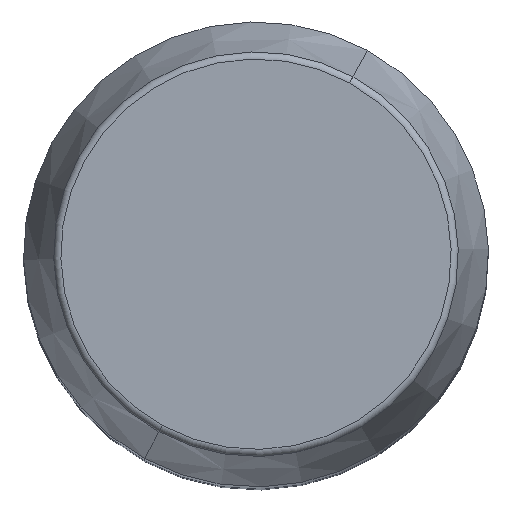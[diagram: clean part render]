
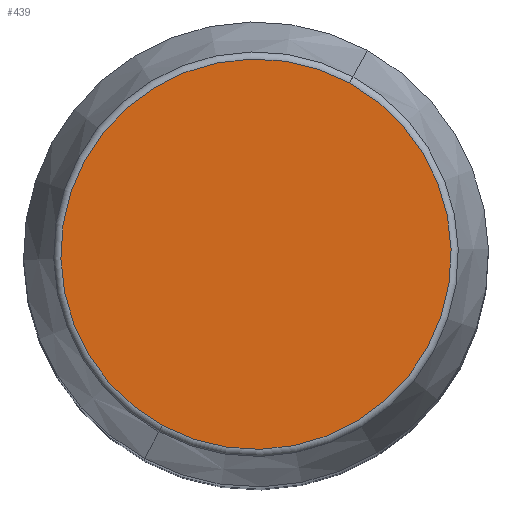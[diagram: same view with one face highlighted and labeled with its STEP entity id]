
A CAD part, top view. The second image highlights one B-rep face of the part: STEP entity #439.
In plain terms, the highlighted planar face has unit normal (0, 0, 1).
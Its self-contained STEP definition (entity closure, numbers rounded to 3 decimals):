
#391=CARTESIAN_POINT('Vertex',(-12.679,-23.208,280.)) ;
#394=CARTESIAN_POINT('Axis2P3D Location',(0.,0.,280.)) ;
#398=CARTESIAN_POINT('Vertex',(12.679,23.208,280.)) ;
#418=CARTESIAN_POINT('Axis2P3D Location',(0.,0.,280.)) ;
#430=CARTESIAN_POINT('Axis2P3D Location',(0.,26.445,280.)) ;
#395=DIRECTION('Axis2P3D Direction',(0.,0.,-1.)) ;
#419=DIRECTION('Axis2P3D Direction',(0.,0.,-1.)) ;
#431=DIRECTION('Axis2P3D Direction',(0.,0.,-1.)) ;
#432=DIRECTION('Axis2P3D XDirection',(1.,0.,0.)) ;
#396=AXIS2_PLACEMENT_3D('Circle Axis2P3D',#394,#395,$) ;
#420=AXIS2_PLACEMENT_3D('Circle Axis2P3D',#418,#419,$) ;
#433=AXIS2_PLACEMENT_3D('Plane Axis2P3D',#430,#431,#432) ;
#436=ORIENTED_EDGE('',*,*,#422,.F.) ;
#437=ORIENTED_EDGE('',*,*,#400,.F.) ;
#439=ADVANCED_FACE('PartBody',(#438),#434,.F.) ;
#397=CIRCLE('generated circle',#396,26.445) ;
#421=CIRCLE('generated circle',#420,26.445) ;
#400=EDGE_CURVE('',#392,#399,#397,.T.) ;
#422=EDGE_CURVE('',#399,#392,#421,.T.) ;
#435=EDGE_LOOP('',(#436,#437)) ;
#438=FACE_OUTER_BOUND('',#435,.T.) ;
#434=PLANE('Plane',#433) ;
#392=VERTEX_POINT('',#391) ;
#399=VERTEX_POINT('',#398) ;
